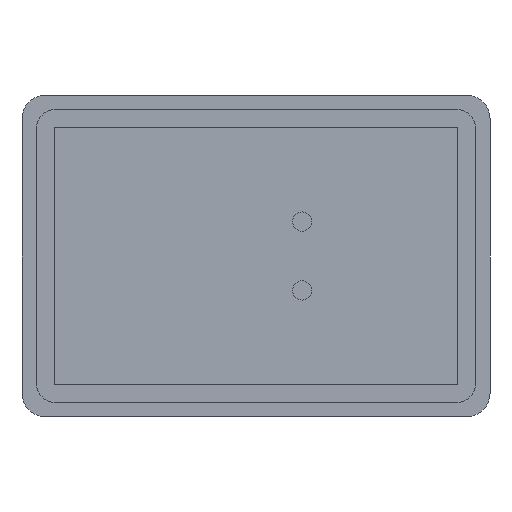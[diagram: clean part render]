
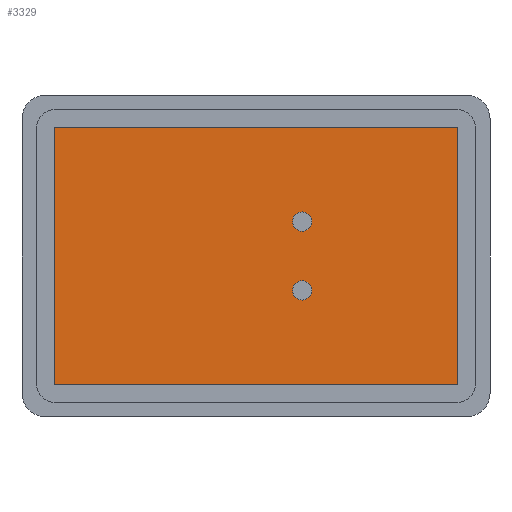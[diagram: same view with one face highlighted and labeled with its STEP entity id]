
A CAD part, front view. The second image highlights one B-rep face of the part: STEP entity #3329.
In plain terms, the highlighted planar face has unit normal (0, -1, 0).
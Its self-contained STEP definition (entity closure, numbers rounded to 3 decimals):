
#78 = CARTESIAN_POINT ( 'NONE',  ( 0., -4., 0. ) ) ;
#79 = LINE ( 'NONE', #4232, #4064 ) ;
#239 = VERTEX_POINT ( 'NONE', #3083 ) ;
#277 = CIRCLE ( 'NONE', #2235, 3.302 ) ;
#370 = VECTOR ( 'NONE', #918, 1000. ) ;
#490 = ORIENTED_EDGE ( 'NONE', *, *, #2521, .T. ) ;
#543 = AXIS2_PLACEMENT_3D ( 'NONE', #5010, #5437, #3311 ) ;
#653 = VERTEX_POINT ( 'NONE', #4270 ) ;
#806 = DIRECTION ( 'NONE',  ( 0., 0., -1. ) ) ;
#819 = EDGE_LOOP ( 'NONE', ( #4556, #1751 ) ) ;
#906 = DIRECTION ( 'NONE',  ( 0., -1., 0. ) ) ;
#918 = DIRECTION ( 'NONE',  ( -1., 0., 0. ) ) ;
#942 = CIRCLE ( 'NONE', #4053, 0.35 ) ;
#1029 = CIRCLE ( 'NONE', #4151, 3.302 ) ;
#1104 = VECTOR ( 'NONE', #4367, 1000. ) ;
#1135 = DIRECTION ( 'NONE',  ( 0., 0., 1. ) ) ;
#1166 = EDGE_LOOP ( 'NONE', ( #3497, #4105, #1635, #3938, #1412, #490, #2586, #2240 ) ) ;
#1174 = DIRECTION ( 'NONE',  ( 0., 0., 1. ) ) ;
#1262 = CIRCLE ( 'NONE', #3740, 0.35 ) ;
#1305 = DIRECTION ( 'NONE',  ( 0., 0., 1. ) ) ;
#1310 = AXIS2_PLACEMENT_3D ( 'NONE', #5376, #1547, #1135 ) ;
#1320 = DIRECTION ( 'NONE',  ( 0., -1., 0. ) ) ;
#1412 = ORIENTED_EDGE ( 'NONE', *, *, #3969, .T. ) ;
#1440 = VERTEX_POINT ( 'NONE', #3340 ) ;
#1547 = DIRECTION ( 'NONE',  ( 0., -1., 0. ) ) ;
#1590 = CARTESIAN_POINT ( 'NONE',  ( -68.58, -4., -43.637 ) ) ;
#1619 = DIRECTION ( 'NONE',  ( 0., 0., -1. ) ) ;
#1635 = ORIENTED_EDGE ( 'NONE', *, *, #4455, .T. ) ;
#1692 = VERTEX_POINT ( 'NONE', #3757 ) ;
#1700 = AXIS2_PLACEMENT_3D ( 'NONE', #3813, #4799, #1755 ) ;
#1714 = VERTEX_POINT ( 'NONE', #4100 ) ;
#1717 = VERTEX_POINT ( 'NONE', #2908 ) ;
#1728 = CARTESIAN_POINT ( 'NONE',  ( 68.58, -4., 43.987 ) ) ;
#1751 = ORIENTED_EDGE ( 'NONE', *, *, #3381, .F. ) ;
#1755 = DIRECTION ( 'NONE',  ( 0., 0., 1. ) ) ;
#1772 = DIRECTION ( 'NONE',  ( 0., 1., 0. ) ) ;
#1782 = CIRCLE ( 'NONE', #543, 3.302 ) ;
#1884 = ORIENTED_EDGE ( 'NONE', *, *, #3203, .F. ) ;
#1898 = VERTEX_POINT ( 'NONE', #4271 ) ;
#1944 = CARTESIAN_POINT ( 'NONE',  ( 68.58, -4., 43.637 ) ) ;
#2080 = CARTESIAN_POINT ( 'NONE',  ( 15.75, -4., 8.448 ) ) ;
#2093 = CARTESIAN_POINT ( 'NONE',  ( -68.58, -4., -43.987 ) ) ;
#2133 = AXIS2_PLACEMENT_3D ( 'NONE', #5155, #906, #3367 ) ;
#2235 = AXIS2_PLACEMENT_3D ( 'NONE', #3405, #1320, #2661 ) ;
#2240 = ORIENTED_EDGE ( 'NONE', *, *, #5178, .T. ) ;
#2450 = EDGE_CURVE ( 'NONE', #1440, #2469, #1262, .T. ) ;
#2469 = VERTEX_POINT ( 'NONE', #2093 ) ;
#2494 = EDGE_CURVE ( 'NONE', #1692, #4513, #4465, .T. ) ;
#2521 = EDGE_CURVE ( 'NONE', #653, #1692, #5167, .T. ) ;
#2586 = ORIENTED_EDGE ( 'NONE', *, *, #2494, .T. ) ;
#2594 = CARTESIAN_POINT ( 'NONE',  ( -68.93, -4., 43.637 ) ) ;
#2596 = EDGE_CURVE ( 'NONE', #1714, #1717, #277, .T. ) ;
#2647 = FACE_BOUND ( 'NONE', #2698, .T. ) ;
#2661 = DIRECTION ( 'NONE',  ( 0., 0., -1. ) ) ;
#2698 = EDGE_LOOP ( 'NONE', ( #4476, #1884 ) ) ;
#2876 = DIRECTION ( 'NONE',  ( 0., -1., 0. ) ) ;
#2908 = CARTESIAN_POINT ( 'NONE',  ( 15.75, -4., -8.448 ) ) ;
#3083 = CARTESIAN_POINT ( 'NONE',  ( 15.75, -4., 15.052 ) ) ;
#3118 = CARTESIAN_POINT ( 'NONE',  ( 68.58, -4., -43.987 ) ) ;
#3203 = EDGE_CURVE ( 'NONE', #1717, #1714, #1782, .T. ) ;
#3222 = VERTEX_POINT ( 'NONE', #4953 ) ;
#3298 = LINE ( 'NONE', #4997, #3536 ) ;
#3311 = DIRECTION ( 'NONE',  ( 0., 0., -1. ) ) ;
#3329 = ADVANCED_FACE ( 'NONE', ( #4344, #2647, #4682 ), #3882, .F. ) ;
#3340 = CARTESIAN_POINT ( 'NONE',  ( -68.93, -4., -43.637 ) ) ;
#3367 = DIRECTION ( 'NONE',  ( 0., 0., -1. ) ) ;
#3381 = EDGE_CURVE ( 'NONE', #239, #4341, #4537, .T. ) ;
#3405 = CARTESIAN_POINT ( 'NONE',  ( 15.75, -4., -11.75 ) ) ;
#3471 = EDGE_CURVE ( 'NONE', #2469, #4250, #4867, .T. ) ;
#3497 = ORIENTED_EDGE ( 'NONE', *, *, #2450, .T. ) ;
#3536 = VECTOR ( 'NONE', #1619, 1000. ) ;
#3645 = DIRECTION ( 'NONE',  ( 0., -1., 0. ) ) ;
#3700 = CIRCLE ( 'NONE', #1310, 0.35 ) ;
#3740 = AXIS2_PLACEMENT_3D ( 'NONE', #1590, #4995, #1174 ) ;
#3757 = CARTESIAN_POINT ( 'NONE',  ( -68.58, -4., 43.987 ) ) ;
#3813 = CARTESIAN_POINT ( 'NONE',  ( -68.58, -4., 43.637 ) ) ;
#3882 = PLANE ( 'NONE',  #5509 ) ;
#3938 = ORIENTED_EDGE ( 'NONE', *, *, #4604, .T. ) ;
#3969 = EDGE_CURVE ( 'NONE', #1898, #653, #942, .T. ) ;
#4034 = EDGE_CURVE ( 'NONE', #4341, #239, #1029, .T. ) ;
#4053 = AXIS2_PLACEMENT_3D ( 'NONE', #1944, #3645, #5358 ) ;
#4064 = VECTOR ( 'NONE', #5181, 1000. ) ;
#4100 = CARTESIAN_POINT ( 'NONE',  ( 15.75, -4., -15.052 ) ) ;
#4105 = ORIENTED_EDGE ( 'NONE', *, *, #3471, .T. ) ;
#4151 = AXIS2_PLACEMENT_3D ( 'NONE', #4630, #2876, #806 ) ;
#4232 = CARTESIAN_POINT ( 'NONE',  ( 68.93, -4., -43.637 ) ) ;
#4250 = VERTEX_POINT ( 'NONE', #3118 ) ;
#4270 = CARTESIAN_POINT ( 'NONE',  ( 68.58, -4., 43.987 ) ) ;
#4271 = CARTESIAN_POINT ( 'NONE',  ( 68.93, -4., 43.637 ) ) ;
#4341 = VERTEX_POINT ( 'NONE', #2080 ) ;
#4344 = FACE_BOUND ( 'NONE', #819, .T. ) ;
#4367 = DIRECTION ( 'NONE',  ( 1., 0., 0. ) ) ;
#4455 = EDGE_CURVE ( 'NONE', #4250, #3222, #3700, .T. ) ;
#4465 = CIRCLE ( 'NONE', #1700, 0.35 ) ;
#4476 = ORIENTED_EDGE ( 'NONE', *, *, #2596, .F. ) ;
#4513 = VERTEX_POINT ( 'NONE', #2594 ) ;
#4537 = CIRCLE ( 'NONE', #2133, 3.302 ) ;
#4556 = ORIENTED_EDGE ( 'NONE', *, *, #4034, .F. ) ;
#4604 = EDGE_CURVE ( 'NONE', #3222, #1898, #79, .T. ) ;
#4630 = CARTESIAN_POINT ( 'NONE',  ( 15.75, -4., 11.75 ) ) ;
#4682 = FACE_OUTER_BOUND ( 'NONE', #1166, .T. ) ;
#4799 = DIRECTION ( 'NONE',  ( 0., -1., 0. ) ) ;
#4843 = CARTESIAN_POINT ( 'NONE',  ( -68.58, -4., -43.987 ) ) ;
#4867 = LINE ( 'NONE', #4843, #1104 ) ;
#4953 = CARTESIAN_POINT ( 'NONE',  ( 68.93, -4., -43.637 ) ) ;
#4995 = DIRECTION ( 'NONE',  ( 0., -1., 0. ) ) ;
#4997 = CARTESIAN_POINT ( 'NONE',  ( -68.93, -4., 43.637 ) ) ;
#5010 = CARTESIAN_POINT ( 'NONE',  ( 15.75, -4., -11.75 ) ) ;
#5155 = CARTESIAN_POINT ( 'NONE',  ( 15.75, -4., 11.75 ) ) ;
#5167 = LINE ( 'NONE', #1728, #370 ) ;
#5178 = EDGE_CURVE ( 'NONE', #4513, #1440, #3298, .T. ) ;
#5181 = DIRECTION ( 'NONE',  ( 0., 0., 1. ) ) ;
#5358 = DIRECTION ( 'NONE',  ( 0., 0., 1. ) ) ;
#5376 = CARTESIAN_POINT ( 'NONE',  ( 68.58, -4., -43.637 ) ) ;
#5437 = DIRECTION ( 'NONE',  ( 0., -1., 0. ) ) ;
#5509 = AXIS2_PLACEMENT_3D ( 'NONE', #78, #1772, #1305 ) ;
